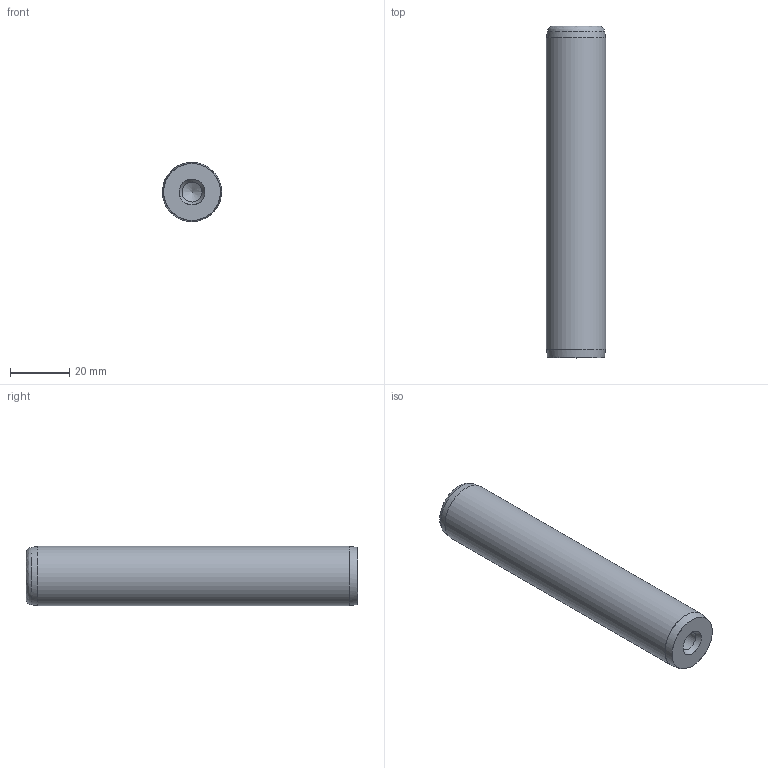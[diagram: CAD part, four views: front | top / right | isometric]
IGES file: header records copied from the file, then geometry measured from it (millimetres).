
Start section: Missler Software BP 521, 31674 Labege Cedex, France Tel   : +33 (0)5 61 00 03 00 Fax   : +33 (0)5 61 00 03 03 Email : sup.topsolid@topsolid.com
Global section: file name: D:\Cuma\D14\D14_20112.igs; native system: TopSolid v605250 Missler Software; preprocessor: IGES preprocessor v100000; date: 030119.014549; units: millimetre
Bounding box: 19.97 x 112 x 20 mm (x, y, z)
Surface area: 8675.8 mm2 (no closed solid volume)
Topology: 0 solids, 0 shells, 14 faces, 129 edges, 120 vertices
Faces by surface type: bspline 14
